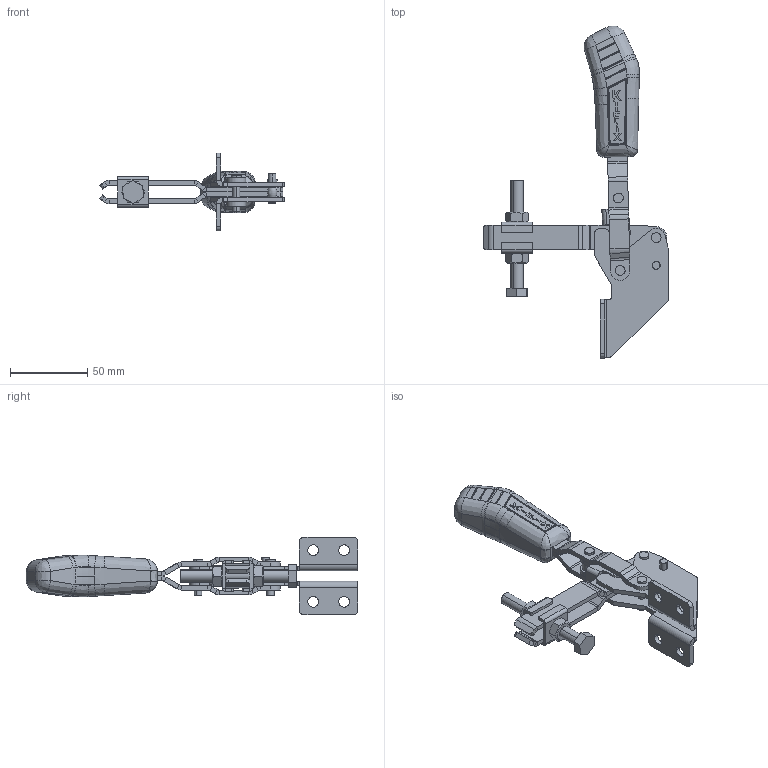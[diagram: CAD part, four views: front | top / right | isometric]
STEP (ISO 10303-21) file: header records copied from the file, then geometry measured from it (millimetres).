
FILE_DESCRIPTION (( 'STEP AP203' ), '1' );
FILE_NAME ('KF-019 DB.STEP', '2014-07-31T12:31:41', ( 'Ricardo' ), ( '' ), 'SwSTEP 2.0', 'SolidWorks 2013', '' );
FILE_SCHEMA (( 'CONFIG_CONTROL_DESIGN' ));
Length unit declared in the file: millimetre
Products named in the file (15): 05.20017; 06.50001; 06.50002; 02.12022_Direita; 07.60001; 02.12022_Esquerda; 11.50002; 03.13004_Direita; 12.50003; 03.13004_Esquerda; 14.10001; 04.10001; 01.10005; 04.20001; KF-019 DB
Assembly tree (19 placements, depth 2):
  KF-019 DB
    02.12022_Direita
    02.12022_Esquerda
    03.13004_Direita
    03.13004_Esquerda
    04.10001
    04.20001
    05.20017
    06.50001  x2
    06.50002  x2
    07.60001
    11.50002  x2
    12.50003
    14.10001  x2
    01.10005  x2
Bounding box: 119.9 x 215.18 x 50.5 mm (x, y, z)
Volume: 97203.4 mm3; surface area: 55563.4 mm2
Topology: 19 solids, 19 shells, 814 faces, 1981 edges, 1220 vertices
Faces by surface type: plane 394, cylinder 255, bspline 126, cone 34, torus 5
Entity records: 25609 total; most frequent: CARTESIAN_POINT 8795, ORIENTED_EDGE 3394, DIRECTION 2743, EDGE_CURVE 1697, VERTEX_POINT 1062, AXIS2_PLACEMENT_3D 964, VECTOR 815, LINE 815
